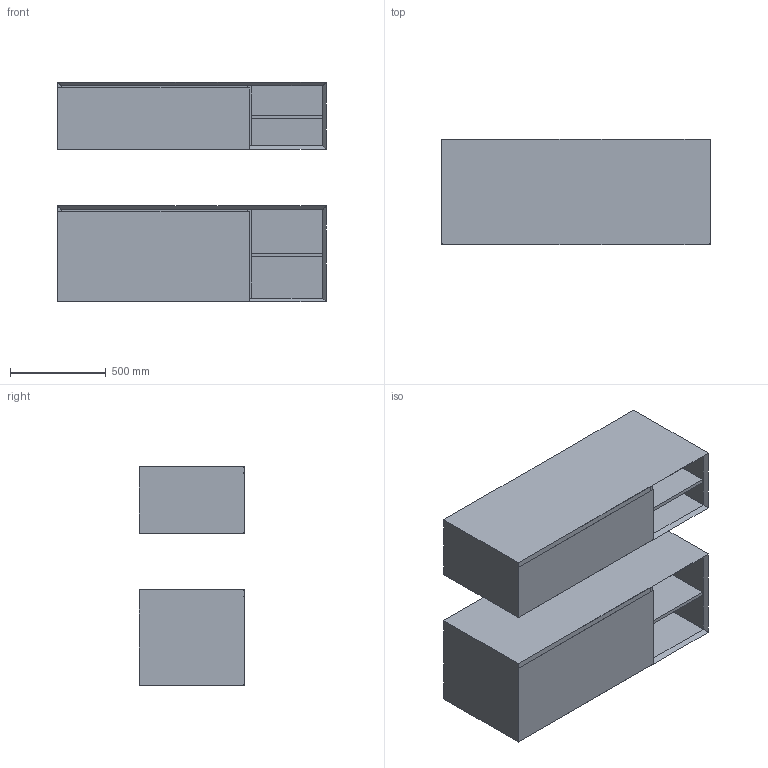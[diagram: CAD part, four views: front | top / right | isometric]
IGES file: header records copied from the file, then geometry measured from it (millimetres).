
Global section: file name: \\Archi-NAS\Comune\X GIOVANNI\MOBILI\EVOLINE\EVOLINE_11.igs; native system: Rhinoceros ( Feb 23 2021 ); preprocessor: Trout Lake IGES 012 Feb 23 2021; date: 230607.150439; units: millimetre
Bounding box: 1400 x 550 x 1143.94 mm (x, y, z)
Surface area: 16943459.7 mm2 (no closed solid volume)
Topology: 0 solids, 0 shells, 154 faces, 1120 edges, 1120 vertices
Faces by surface type: bspline 154
